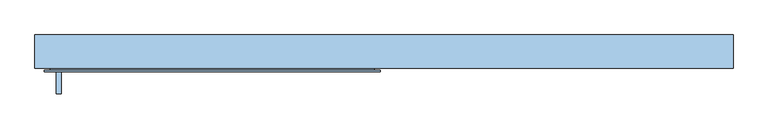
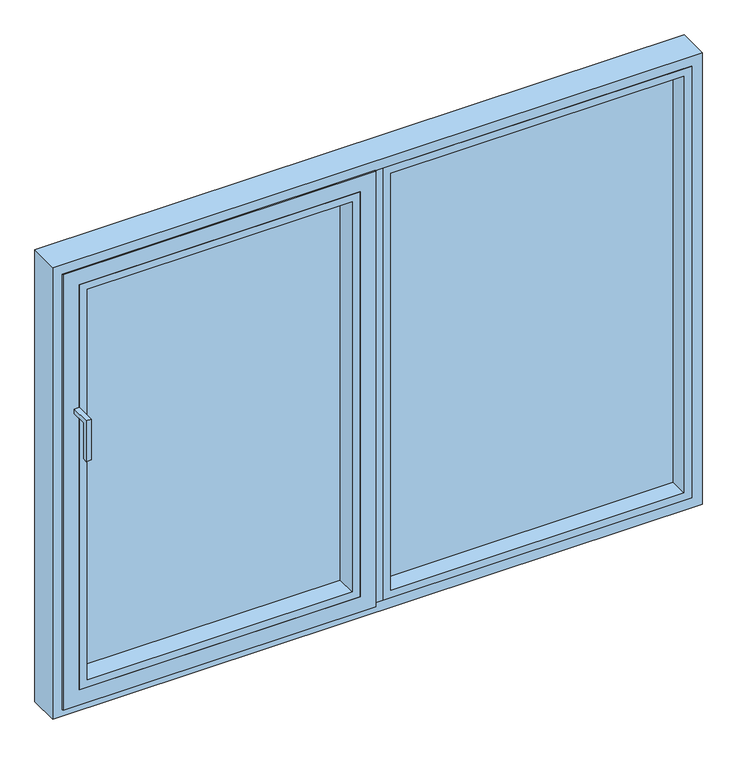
"""IFC4 building model written with IfcOpenShell, lengths in millimetres: window geometry, Reynaers_MasterLine 10_Window_Inward Opening_Combined : Reynaers_MasterLine 10_Window_Inward Opening_Combined."""

from ifc_helpers import new_model, si_unit, frame, origin, place, context, project, spatial, polyline, outline, extrude, faceted_brep, source, transform, mapped, element, save


def window_7be41690(model_context):
    return source(origin(), model_context, "Body", "SolidModel", [
        extrude(outline(polyline([(-102.0, 1820.0), (-152.0, 1820.0), (-152.0, 1700.0), (-167.0, 1700.0), (-167.0, 1835.0), (-102.0, 1835.0), (-102.0, 1820.0)])), frame((-958.0, 0.0, 0.0), z_axis=(1.0, 0.0, 0.0), x_axis=(0.0, 1.0, 0.0)), (0.0, 0.0, 1.0), 15.0),
        faceted_brep([(16.5, 1.0, 853.0), (16.5, -92.0, 853.0), (-16.5, -92.0, 853.0), (-16.5, 1.0, 853.0), (-16.5, 1.0, 2287.0), (-16.5, -92.0, 2287.0), (16.5, -92.0, 2287.0), (16.5, 1.0, 2287.0), (43.5, 5.0, 880.0), (43.5, 5.0, 2260.0), (43.5, 1.0, 2260.0), (43.5, 1.0, 880.0), (16.5, 1.0, 2260.0), (16.5, 1.0, 880.0), (-16.5, 1.0, 2260.0), (-16.5, 1.0, 880.0), (-43.5, 1.0, 2260.0), (-43.5, 1.0, 880.0), (-43.5, 5.0, 2260.0), (-43.5, 5.0, 880.0)], [[[0, 1, 2, 3]], [[4, 5, 6, 7]], [[8, 9, 10, 11]], [[11, 10, 12, 13]], [[1, 0, 13, 12, 7, 6]], [[2, 1, 6, 5]], [[3, 2, 5, 4, 14, 15]], [[15, 14, 16, 17]], [[17, 16, 18, 19]], [[9, 8, 19, 18]], [[15, 13, 0, 3]], [[12, 14, 4, 7]], [[13, 15, 17, 19, 8, 11]], [[14, 12, 10, 9, 18, 16]]]),
        extrude(outline(polyline([(2287.0, 16.5), (853.0, 16.5), (853.0, 987.0), (2287.0, 987.0), (2287.0, 16.5)]), holes=[polyline([(2262.0, 962.0), (878.0, 962.0), (878.0, 41.5), (2262.0, 41.5), (2262.0, 962.0)])]), frame((0.0, -92.0, 0.0), z_axis=(0.0, 1.0, 0.0), x_axis=(0.0, 0.0, 1.0)), (0.0, 0.0, 1.0), 57.4),
        faceted_brep([(1020.0, -92.0, 820.0), (1020.0, 5.0, 820.0), (1020.0, 5.0, 2320.0), (1020.0, -92.0, 2320.0), (960.0, 5.0, 880.0), (960.0, 1.0, 880.0), (960.0, 1.0, 2260.0), (960.0, 5.0, 2260.0), (-1020.0, 5.0, 2320.0), (-1020.0, -92.0, 2320.0), (-960.0, 1.0, 2260.0), (-960.0, 5.0, 2260.0), (-1020.0, 5.0, 820.0), (-1020.0, -92.0, 820.0), (-960.0, 1.0, 880.0), (-960.0, 5.0, 880.0), (987.0, -92.0, 853.0), (-987.0, -92.0, 853.0), (-987.0, -92.0, 2287.0), (987.0, -92.0, 2287.0), (987.0, 1.0, 2287.0), (-987.0, 1.0, 2287.0), (-987.0, 1.0, 853.0), (987.0, 1.0, 853.0)], [[[0, 1, 2, 3]], [[4, 5, 6, 7]], [[3, 2, 8, 9]], [[7, 6, 10, 11]], [[9, 8, 12, 13]], [[11, 10, 14, 15]], [[1, 12, 8, 2], [7, 11, 15, 4]], [[13, 12, 1, 0]], [[3, 9, 13, 0], [16, 17, 18, 19]], [[15, 14, 5, 4]], [[20, 19, 18, 21]], [[21, 18, 17, 22]], [[22, 17, 16, 23]], [[23, 16, 19, 20]], [[21, 22, 23, 20], [6, 5, 14, 10]]]),
        faceted_brep([(-50.5, 0.2000001, 887.0), (-50.5, 5.0, 887.0), (-50.5, 5.0, 2253.0), (-50.5, 0.2000001, 2253.0), (-87.5, 5.0, 924.0), (-87.5, 1.0000001, 924.0), (-87.5, 1.0000001, 2216.0), (-87.5, 5.0, 2216.0), (-953.0, 5.0, 2253.0), (-953.0, 0.2000001, 2253.0), (-916.0, 1.0000001, 2216.0), (-916.0, 5.0, 2216.0), (-953.0, 5.0, 887.0), (-953.0, 0.2000001, 887.0), (-916.0, 1.0000001, 924.0), (-916.0, 5.0, 924.0), (-10.5, -102.0, 2293.0), (-993.0, -102.0, 2293.0), (-993.0, -102.0, 847.0), (-10.5, -102.0, 847.0), (-60.5, -102.0, 897.0), (-943.0, -102.0, 897.0), (-943.0, -102.0, 2243.0), (-60.5, -102.0, 2243.0), (-60.5, 1.0000001, 2243.0), (-943.0, 1.0000001, 2243.0), (-943.0, 1.0000001, 897.0), (-60.5, 1.0000001, 897.0), (-28.0, -98.0, 2275.5), (-28.0, 0.2000001, 2275.5), (-975.5, 0.2000001, 2275.5), (-975.5, -98.0, 2275.5), (-10.5, -98.0, 2293.0), (-993.0, -98.0, 2293.0), (-975.5, 0.2000001, 864.5), (-975.5, -98.0, 864.5), (-993.0, -98.0, 847.0), (-28.0, 0.2000001, 864.5), (-28.0, -98.0, 864.5), (-10.5, -98.0, 847.0)], [[[0, 1, 2, 3]], [[4, 5, 6, 7]], [[3, 2, 8, 9]], [[7, 6, 10, 11]], [[9, 8, 12, 13]], [[11, 10, 14, 15]], [[1, 12, 8, 2], [7, 11, 15, 4]], [[13, 12, 1, 0]], [[16, 17, 18, 19], [20, 21, 22, 23]], [[15, 14, 5, 4]], [[24, 23, 22, 25]], [[25, 22, 21, 26]], [[26, 21, 20, 27]], [[27, 20, 23, 24]], [[25, 26, 27, 24], [6, 5, 14, 10]], [[28, 29, 30, 31]], [[16, 32, 33, 17]], [[31, 30, 34, 35]], [[17, 33, 36, 18]], [[35, 34, 37, 38]], [[18, 36, 39, 19]], [[29, 37, 34, 30], [9, 13, 0, 3]], [[38, 37, 29, 28]], [[32, 39, 36, 33], [31, 35, 38, 28]], [[19, 39, 32, 16]]]),
        extrude(outline(polyline([(2243.0, -943.0), (897.0, -943.0), (897.0, -60.5), (2243.0, -60.5), (2243.0, -943.0)]), holes=[polyline([(2218.0, -85.5), (922.0, -85.5), (922.0, -918.0), (2218.0, -918.0), (2218.0, -85.5)])]), frame((0.0, -102.0, 0.0), z_axis=(0.0, 1.0, 0.0), x_axis=(0.0, 0.0, 1.0)), (0.0, 0.0, 1.0), 65.3),
        extrude(outline(polyline([(979.0, -30.0), (24.5, -30.0), (24.5, -3.0), (979.0, -3.0), (979.0, -30.0)])), frame((0.0, 0.0, 861.0), z_axis=(0.0, 0.0, 1.0), x_axis=(1.0, 0.0, 0.0)), (0.0, 0.0, 1.0), 1418.0),
        extrude(outline(polyline([(-68.5, -30.0), (-935.0, -30.0), (-935.0, -3.0), (-68.5, -3.0), (-68.5, -30.0)])), frame((0.0, 0.0, 905.0), z_axis=(0.0, 0.0, 1.0), x_axis=(1.0, 0.0, 0.0)), (0.0, 0.0, 1.0), 1330.0),
    ])


if __name__ == "__main__":
    model = new_model("IFC4")
    model_context = context("Model", 3, world=origin())
    ifc_project = project(units=[si_unit("LENGTHUNIT", "METRE", prefix="MILLI")], contexts=[model_context])
    site = spatial("IfcSite", under=ifc_project)
    building = spatial("IfcBuilding", under=site)
    placement = place(None, origin())
    window_shape = window_7be41690(model_context)
    element("IfcWindow", 1, ObjectType="Reynaers_MasterLine 10_Window_Inward Opening_Combined : Reynaers_MasterLine 10_Window_Inward Opening_Combined", at=placement, inside=building, context=model_context, shape_type="MappedRepresentation", body=[
        mapped(window_shape, transform((0.0, 0.0, 0.0), x_axis=(1.0, 0.0, 0.0), y_axis=(0.0, 1.0, 0.0), z_axis=(0.0, 0.0, 1.0))),
    ])
    save(model, "model.ifc")
